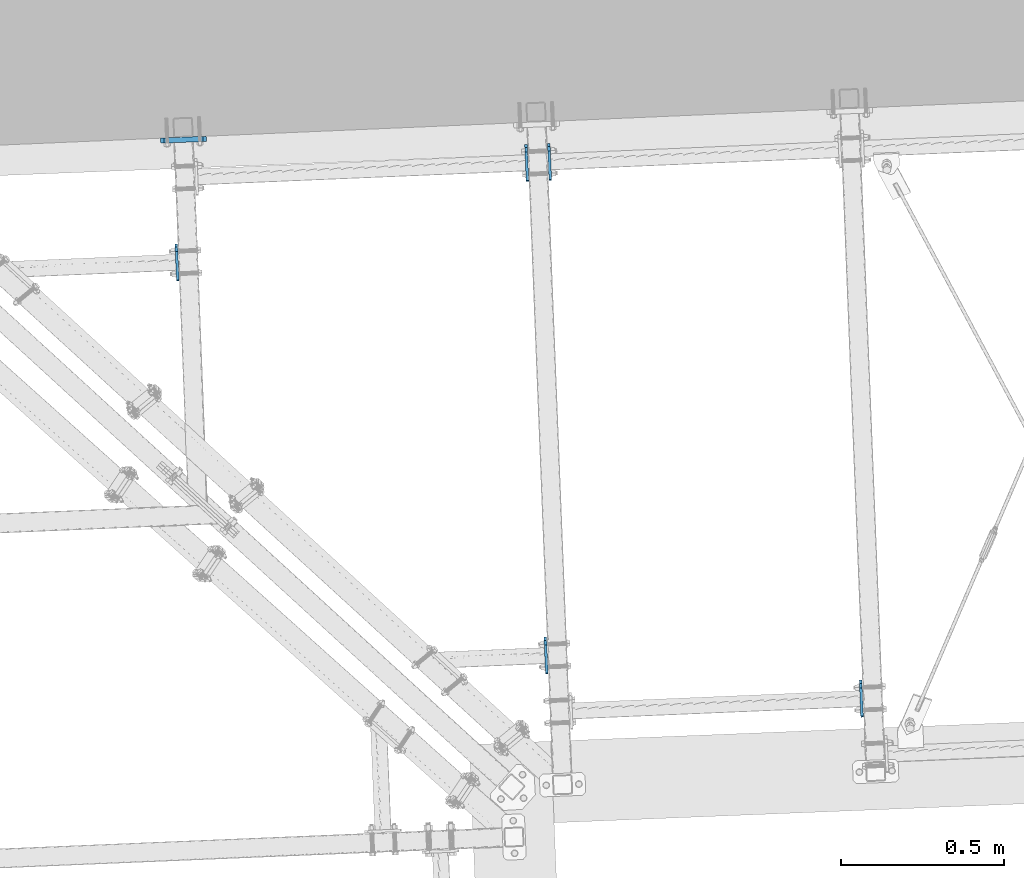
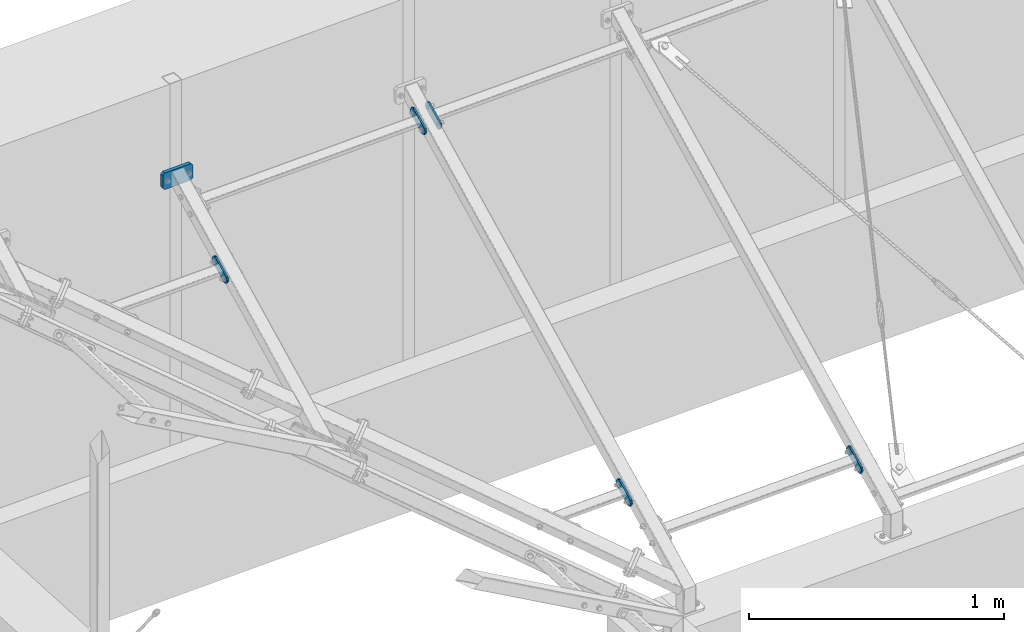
# One storey, part 59 of 288: 6 plates, 42 openings.
"""IFC2X3 building model written with IfcOpenShell, lengths in millimetres."""

from ifc_helpers import new_model, entity, si_unit, converted_unit, point, frame, frame_2d, origin, origin_with_axes, origin_2d_with_axis, place, context, project, spatial, polyline, circle_curve, line_curve, trimmed, segment, composite_curve, circle, outline, extrude, material, layer, layer_set, element, save


model = new_model("IFC2X3")

# Units and contexts
model_context = context("Model", 3, precision=1e-09, world=origin_with_axes())
ifc_project = project(units=[si_unit("LENGTHUNIT", "METRE", prefix="MILLI"), si_unit("AREAUNIT", "SQUARE_METRE"), si_unit("VOLUMEUNIT", "CUBIC_METRE"), converted_unit("PLANEANGLEUNIT", "DEGREE", entity("IfcPlaneAngleMeasure", 0.01745329), si_unit("PLANEANGLEUNIT", "RADIAN"), dimensions=[0, 0, 0, 0, 0, 0, 0])], contexts=[model_context])

# Site, building, storey
site_placement = place(None, origin_with_axes())
site = spatial("IfcSite", under=ifc_project, at=site_placement, Name="Remont ?wietlik?w nad MC w NCPP w Opolu", CompositionType="ELEMENT")
building_placement = place(site_placement, origin_with_axes())
building = spatial("IfcBuilding", under=site, at=building_placement, Name="Konstrukcja 1", CompositionType="ELEMENT")
storey_placement = place(building_placement, origin_with_axes())
storey = spatial("IfcBuildingStorey", under=building, at=storey_placement, Name="Default Storey", CompositionType="ELEMENT", Elevation=0.0)

# Plate, openings
ifc_material = material(Name="S235")
ifc_layer_1 = layer(ifc_material, 8.0)
ifc_layer_set_1 = layer_set([ifc_layer_1], Name="S235")
plate_1_placement = place(None, frame((1371.612563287, 15444.097361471, 1176.731689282), z_axis=(-0.999102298, -0.042361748, 0.000284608), x_axis=(0.021561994, -0.502733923, 0.864172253)))
plate_1 = element("IfcPlate", 1, at=plate_1_placement, inside=storey, material=ifc_layer_set_1, Name="-", ObjectType="-", context=model_context, shape_type="SweptSolid", body=[
    extrude(outline(polyline([(0.0, 0.0), (40.0, 0.0), (40.0, 120.0), (0.0, 120.0), (0.0, 0.0)])), origin_with_axes(), (0.0, 0.0, 1.0), 8.0),
])
opening_1_placement = place(plate_1_placement, frame((0.0, 0.0, -0.01), z_axis=(0.0, 0.0, 1.0), x_axis=(1.0, 0.0, 0.0)))
element("IfcOpeningElement", 2, at=opening_1_placement, cuts=plate_1, ObjectType="Opening", context=model_context, shape_type="SweptSolid", body=[
    extrude(outline(composite_curve([segment(trimmed(line_curve((40.0, 0.0), (0.0, 1.0), 10.0), [point((40.0, 0.0))], [point((40.0, 10.0))], True, "CARTESIAN"), True, "CONTINUOUS"), segment(trimmed(circle_curve(frame_2d((30.0, 10.0), x_axis=(-1.0, 0.0)), 10.0), [point((40.0, 10.0))], [point((30.0, 0.0))], False, "CARTESIAN"), True, "CONTINUOUS"), segment(trimmed(line_curve((30.0, 0.0), (1.0, 0.0), 10.0), [point((30.0, 0.0))], [point((40.0, 0.0))], True, "CARTESIAN"), True, "CONTINUOUS")], self_intersect=False)), origin(), (0.0, 0.0, 1.0), 8.02),
])
opening_2_placement = place(plate_1_placement, frame((0.0, 0.0, -0.01), z_axis=(0.0, 0.0, 1.0), x_axis=(1.0, 0.0, 0.0)))
element("IfcOpeningElement", 3, at=opening_2_placement, cuts=plate_1, ObjectType="Opening", context=model_context, shape_type="SweptSolid", body=[
    extrude(outline(composite_curve([segment(trimmed(line_curve((0.0, 0.0), (1.0, 0.0), 10.0), [point((0.0, 0.0))], [point((10.0, 0.0))], True, "CARTESIAN"), True, "CONTINUOUS"), segment(trimmed(circle_curve(frame_2d((10.0, 10.0), x_axis=(-1.0, 0.0)), 10.0), [point((10.0, 0.0))], [point((0.0, 10.0))], False, "CARTESIAN"), True, "CONTINUOUS"), segment(trimmed(line_curve((0.0, 10.0), (0.0, -1.0), 10.0), [point((0.0, 10.0))], [point((0.0, 0.0))], True, "CARTESIAN"), True, "CONTINUOUS")], self_intersect=False)), origin(), (0.0, 0.0, 1.0), 8.02),
])
opening_3_placement = place(plate_1_placement, frame((0.0, 0.0, -0.01), z_axis=(0.0, 0.0, 1.0), x_axis=(1.0, 0.0, 0.0)))
element("IfcOpeningElement", 4, at=opening_3_placement, cuts=plate_1, ObjectType="Opening", context=model_context, shape_type="SweptSolid", body=[
    extrude(outline(composite_curve([segment(trimmed(line_curve((40.0, 120.0), (-1.0, 0.0), 10.0), [point((40.0, 120.0))], [point((30.0, 120.0))], True, "CARTESIAN"), True, "CONTINUOUS"), segment(trimmed(circle_curve(frame_2d((30.0, 110.0), x_axis=(-1.0, 0.0)), 10.0), [point((30.0, 120.0))], [point((40.0, 110.0))], False, "CARTESIAN"), True, "CONTINUOUS"), segment(trimmed(line_curve((40.0, 110.0), (0.0, 1.0), 10.0), [point((40.0, 110.0))], [point((40.0, 120.0))], True, "CARTESIAN"), True, "CONTINUOUS")], self_intersect=False)), origin(), (0.0, 0.0, 1.0), 8.02),
])
opening_4_placement = place(plate_1_placement, frame((0.0, 0.0, -0.01), z_axis=(0.0, 0.0, 1.0), x_axis=(1.0, 0.0, 0.0)))
element("IfcOpeningElement", 5, at=opening_4_placement, cuts=plate_1, ObjectType="Opening", context=model_context, shape_type="SweptSolid", body=[
    extrude(outline(composite_curve([segment(trimmed(line_curve((0.0, 120.0), (0.0, -1.0), 10.0), [point((0.0, 120.0))], [point((0.0, 110.0))], True, "CARTESIAN"), True, "CONTINUOUS"), segment(trimmed(circle_curve(frame_2d((10.0, 110.0), x_axis=(-1.0, 0.0)), 10.0), [point((0.0, 110.0))], [point((10.0, 120.0))], False, "CARTESIAN"), True, "CONTINUOUS"), segment(trimmed(line_curve((10.0, 120.0), (-1.0, 0.0), 10.0), [point((10.0, 120.0))], [point((0.0, 120.0))], True, "CARTESIAN"), True, "CONTINUOUS")], self_intersect=False)), origin(), (0.0, 0.0, 1.0), 8.02),
])
opening_5_placement = place(plate_1_placement, frame((20.0, 60.0, -0.5), z_axis=(0.0, 0.0, 1.0), x_axis=(1.0, 0.0, 0.0)))
element("IfcOpeningElement", 6, at=opening_5_placement, cuts=plate_1, ObjectType="Opening", context=model_context, shape_type="SweptSolid", body=[
    extrude(circle(Radius=7.001, at=frame_2d((0.0, 40.0), x_axis=(1.0, 0.0))), origin(), (0.0, 0.0, 1.0), 9.0),
])
opening_6_placement = place(plate_1_placement, frame((20.0, 60.0, -0.5), z_axis=(0.0, 0.0, 1.0), x_axis=(1.0, 0.0, 0.0)))
element("IfcOpeningElement", 7, at=opening_6_placement, cuts=plate_1, ObjectType="Opening", context=model_context, shape_type="SweptSolid", body=[
    extrude(circle(Radius=7.001, at=frame_2d((0.0, -40.0), x_axis=(1.0, 0.0))), origin(), (0.0, 0.0, 1.0), 9.0),
])

plate_2_placement = place(None, frame((1441.549724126, 15447.062683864, 1176.711766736), z_axis=(-0.999102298, -0.042361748, 0.000284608), x_axis=(0.021561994, -0.502733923, 0.864172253)))
plate_2 = element("IfcPlate", 8, at=plate_2_placement, inside=storey, material=ifc_layer_set_1, Name="-", ObjectType="-", context=model_context, shape_type="SweptSolid", body=[
    extrude(outline(polyline([(0.0, 0.0), (40.0, 0.0), (40.0, 120.0), (0.0, 120.0), (0.0, 0.0)])), origin_with_axes(), (0.0, 0.0, 1.0), 8.0),
])
opening_7_placement = place(plate_2_placement, frame((0.0, 0.0, -0.01), z_axis=(0.0, 0.0, 1.0), x_axis=(1.0, 0.0, 0.0)))
element("IfcOpeningElement", 9, at=opening_7_placement, cuts=plate_2, ObjectType="Opening", context=model_context, shape_type="SweptSolid", body=[
    extrude(outline(composite_curve([segment(trimmed(line_curve((0.0, 0.0), (1.0, 0.0), 10.0), [point((0.0, 0.0))], [point((10.0, 0.0))], True, "CARTESIAN"), True, "CONTINUOUS"), segment(trimmed(circle_curve(frame_2d((10.0, 10.0), x_axis=(-1.0, 0.0)), 10.0), [point((10.0, 0.0))], [point((0.0, 10.0))], False, "CARTESIAN"), True, "CONTINUOUS"), segment(trimmed(line_curve((0.0, 10.0), (0.0, -1.0), 10.0), [point((0.0, 10.0))], [point((0.0, 0.0))], True, "CARTESIAN"), True, "CONTINUOUS")], self_intersect=False)), origin(), (0.0, 0.0, 1.0), 8.02),
])
opening_8_placement = place(plate_2_placement, frame((0.0, 0.0, -0.01), z_axis=(0.0, 0.0, 1.0), x_axis=(1.0, 0.0, 0.0)))
element("IfcOpeningElement", 10, at=opening_8_placement, cuts=plate_2, ObjectType="Opening", context=model_context, shape_type="SweptSolid", body=[
    extrude(outline(composite_curve([segment(trimmed(line_curve((40.0, 0.0), (0.0, 1.0), 10.0), [point((40.0, 0.0))], [point((40.0, 10.0))], True, "CARTESIAN"), True, "CONTINUOUS"), segment(trimmed(circle_curve(frame_2d((30.0, 10.0), x_axis=(-1.0, 0.0)), 10.0), [point((40.0, 10.0))], [point((30.0, 0.0))], False, "CARTESIAN"), True, "CONTINUOUS"), segment(trimmed(line_curve((30.0, 0.0), (1.0, 0.0), 10.0), [point((30.0, 0.0))], [point((40.0, 0.0))], True, "CARTESIAN"), True, "CONTINUOUS")], self_intersect=False)), origin(), (0.0, 0.0, 1.0), 8.02),
])
opening_9_placement = place(plate_2_placement, frame((0.0, 0.0, -0.01), z_axis=(0.0, 0.0, 1.0), x_axis=(1.0, 0.0, 0.0)))
element("IfcOpeningElement", 11, at=opening_9_placement, cuts=plate_2, ObjectType="Opening", context=model_context, shape_type="SweptSolid", body=[
    extrude(outline(composite_curve([segment(trimmed(line_curve((40.0, 120.0), (-1.0, 0.0), 10.0), [point((40.0, 120.0))], [point((30.0, 120.0))], True, "CARTESIAN"), True, "CONTINUOUS"), segment(trimmed(circle_curve(frame_2d((30.0, 110.0), x_axis=(-1.0, 0.0)), 10.0), [point((30.0, 120.0))], [point((40.0, 110.0))], False, "CARTESIAN"), True, "CONTINUOUS"), segment(trimmed(line_curve((40.0, 110.0), (0.0, 1.0), 10.0), [point((40.0, 110.0))], [point((40.0, 120.0))], True, "CARTESIAN"), True, "CONTINUOUS")], self_intersect=False)), origin(), (0.0, 0.0, 1.0), 8.02),
])
opening_10_placement = place(plate_2_placement, frame((0.0, 0.0, -0.01), z_axis=(0.0, 0.0, 1.0), x_axis=(1.0, 0.0, 0.0)))
element("IfcOpeningElement", 12, at=opening_10_placement, cuts=plate_2, ObjectType="Opening", context=model_context, shape_type="SweptSolid", body=[
    extrude(outline(composite_curve([segment(trimmed(line_curve((0.0, 120.0), (0.0, -1.0), 10.0), [point((0.0, 120.0))], [point((0.0, 110.0))], True, "CARTESIAN"), True, "CONTINUOUS"), segment(trimmed(circle_curve(frame_2d((10.0, 110.0), x_axis=(-1.0, 0.0)), 10.0), [point((0.0, 110.0))], [point((10.0, 120.0))], False, "CARTESIAN"), True, "CONTINUOUS"), segment(trimmed(line_curve((10.0, 120.0), (-1.0, 0.0), 10.0), [point((10.0, 120.0))], [point((0.0, 120.0))], True, "CARTESIAN"), True, "CONTINUOUS")], self_intersect=False)), origin(), (0.0, 0.0, 1.0), 8.02),
])
opening_11_placement = place(plate_2_placement, frame((20.0, 60.0, -0.5), z_axis=(0.0, 0.0, 1.0), x_axis=(1.0, 0.0, 0.0)))
element("IfcOpeningElement", 13, at=opening_11_placement, cuts=plate_2, ObjectType="Opening", context=model_context, shape_type="SweptSolid", body=[
    extrude(circle(Radius=7.001, at=frame_2d((0.0, 40.0), x_axis=(1.0, 0.0))), origin(), (0.0, 0.0, 1.0), 9.0),
])
opening_12_placement = place(plate_2_placement, frame((20.0, 60.0, -0.5), z_axis=(0.0, 0.0, 1.0), x_axis=(1.0, 0.0, 0.0)))
element("IfcOpeningElement", 14, at=opening_12_placement, cuts=plate_2, ObjectType="Opening", context=model_context, shape_type="SweptSolid", body=[
    extrude(circle(Radius=7.001, at=frame_2d((0.0, -40.0), x_axis=(1.0, 0.0))), origin(), (0.0, 0.0, 1.0), 9.0),
])

plate_3_placement = place(None, frame((2396.834676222, 13802.600069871, 193.960324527), z_axis=(-0.999102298, -0.042361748, 0.000284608), x_axis=(0.021561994, -0.502733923, 0.864172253)))
plate_3 = element("IfcPlate", 15, at=plate_3_placement, inside=storey, material=ifc_layer_set_1, Name="-", ObjectType="-", context=model_context, shape_type="SweptSolid", body=[
    extrude(outline(polyline([(0.0, 0.0), (40.0, 0.0), (40.0, 120.0), (0.0, 120.0), (0.0, 0.0)])), origin_with_axes(), (0.0, 0.0, 1.0), 8.0),
])
opening_13_placement = place(plate_3_placement, frame((12.999, 100.0, 8.5), z_axis=(0.0, 0.0, 1.0), x_axis=(1.0, 0.0, 0.0)))
element("IfcOpeningElement", 16, at=opening_13_placement, cuts=plate_3, ObjectType="Opening", context=model_context, shape_type="SweptSolid", body=[
    extrude(circle(Radius=7.001, at=frame_2d((7.001, 0.0), x_axis=(1.0, 0.0))), origin(), (0.0, 0.0, -1.0), 9.0),
])
opening_14_placement = place(plate_3_placement, frame((12.999, 20.0, 8.5), z_axis=(0.0, 0.0, 1.0), x_axis=(1.0, 0.0, 0.0)))
element("IfcOpeningElement", 17, at=opening_14_placement, cuts=plate_3, ObjectType="Opening", context=model_context, shape_type="SweptSolid", body=[
    extrude(circle(Radius=7.001, at=frame_2d((7.001, 0.0), x_axis=(1.0, 0.0))), origin(), (0.0, 0.0, -1.0), 9.0),
])
opening_15_placement = place(plate_3_placement, frame((0.0, 0.0, -0.01), z_axis=(0.0, 0.0, 1.0), x_axis=(1.0, 0.0, 0.0)))
element("IfcOpeningElement", 18, at=opening_15_placement, cuts=plate_3, ObjectType="Opening", context=model_context, shape_type="SweptSolid", body=[
    extrude(outline(composite_curve([segment(trimmed(line_curve((40.0, 0.0), (0.0, 1.0), 10.0), [point((40.0, 0.0))], [point((40.0, 10.0))], True, "CARTESIAN"), True, "CONTINUOUS"), segment(trimmed(circle_curve(frame_2d((30.0, 10.0), x_axis=(-1.0, 0.0)), 10.0), [point((40.0, 10.0))], [point((30.0, 0.0))], False, "CARTESIAN"), True, "CONTINUOUS"), segment(trimmed(line_curve((30.0, 0.0), (1.0, 0.0), 10.0), [point((30.0, 0.0))], [point((40.0, 0.0))], True, "CARTESIAN"), True, "CONTINUOUS")], self_intersect=False)), origin(), (0.0, 0.0, 1.0), 8.02),
])
opening_16_placement = place(plate_3_placement, frame((0.0, 0.0, -0.01), z_axis=(0.0, 0.0, 1.0), x_axis=(1.0, 0.0, 0.0)))
element("IfcOpeningElement", 19, at=opening_16_placement, cuts=plate_3, ObjectType="Opening", context=model_context, shape_type="SweptSolid", body=[
    extrude(outline(composite_curve([segment(trimmed(line_curve((0.0, 0.0), (1.0, 0.0), 10.0), [point((0.0, 0.0))], [point((10.0, 0.0))], True, "CARTESIAN"), True, "CONTINUOUS"), segment(trimmed(circle_curve(frame_2d((10.0, 10.0), x_axis=(-1.0, 0.0)), 10.0), [point((10.0, 0.0))], [point((0.0, 10.0))], False, "CARTESIAN"), True, "CONTINUOUS"), segment(trimmed(line_curve((0.0, 10.0), (0.0, -1.0), 10.0), [point((0.0, 10.0))], [point((0.0, 0.0))], True, "CARTESIAN"), True, "CONTINUOUS")], self_intersect=False)), origin(), (0.0, 0.0, 1.0), 8.02),
])
opening_17_placement = place(plate_3_placement, frame((0.0, 0.0, -0.01), z_axis=(0.0, 0.0, 1.0), x_axis=(1.0, 0.0, 0.0)))
element("IfcOpeningElement", 20, at=opening_17_placement, cuts=plate_3, ObjectType="Opening", context=model_context, shape_type="SweptSolid", body=[
    extrude(outline(composite_curve([segment(trimmed(line_curve((40.0, 120.0), (-1.0, 0.0), 10.0), [point((40.0, 120.0))], [point((30.0, 120.0))], True, "CARTESIAN"), True, "CONTINUOUS"), segment(trimmed(circle_curve(frame_2d((30.0, 110.0), x_axis=(-1.0, 0.0)), 10.0), [point((30.0, 120.0))], [point((40.0, 110.0))], False, "CARTESIAN"), True, "CONTINUOUS"), segment(trimmed(line_curve((40.0, 110.0), (0.0, 1.0), 10.0), [point((40.0, 110.0))], [point((40.0, 120.0))], True, "CARTESIAN"), True, "CONTINUOUS")], self_intersect=False)), origin(), (0.0, 0.0, 1.0), 8.02),
])
opening_18_placement = place(plate_3_placement, frame((0.0, 0.0, -0.01), z_axis=(0.0, 0.0, 1.0), x_axis=(1.0, 0.0, 0.0)))
element("IfcOpeningElement", 21, at=opening_18_placement, cuts=plate_3, ObjectType="Opening", context=model_context, shape_type="SweptSolid", body=[
    extrude(outline(composite_curve([segment(trimmed(line_curve((0.0, 120.0), (0.0, -1.0), 10.0), [point((0.0, 120.0))], [point((0.0, 110.0))], True, "CARTESIAN"), True, "CONTINUOUS"), segment(trimmed(circle_curve(frame_2d((10.0, 110.0), x_axis=(-1.0, 0.0)), 10.0), [point((0.0, 110.0))], [point((10.0, 120.0))], False, "CARTESIAN"), True, "CONTINUOUS"), segment(trimmed(line_curve((10.0, 120.0), (-1.0, 0.0), 10.0), [point((10.0, 120.0))], [point((0.0, 120.0))], True, "CARTESIAN"), True, "CONTINUOUS")], self_intersect=False)), origin(), (0.0, 0.0, 1.0), 8.02),
])
opening_19_placement = place(plate_3_placement, frame((12.999, 100.0, 8.5), z_axis=(0.0, 0.0, 1.0), x_axis=(1.0, 0.0, 0.0)))
element("IfcOpeningElement", 22, at=opening_19_placement, cuts=plate_3, ObjectType="Opening", context=model_context, shape_type="SweptSolid", body=[
    extrude(circle(Radius=7.001, at=frame_2d((7.001, 0.0), x_axis=(1.0, 0.0))), origin(), (0.0, 0.0, -1.0), 9.0),
])
opening_20_placement = place(plate_3_placement, frame((12.999, 20.0, 8.5), z_axis=(0.0, 0.0, 1.0), x_axis=(1.0, 0.0, 0.0)))
element("IfcOpeningElement", 23, at=opening_20_placement, cuts=plate_3, ObjectType="Opening", context=model_context, shape_type="SweptSolid", body=[
    extrude(circle(Radius=7.001, at=frame_2d((7.001, 0.0), x_axis=(1.0, 0.0))), origin(), (0.0, 0.0, -1.0), 9.0),
])

plate_4_placement = place(None, frame((300.159941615, 15139.184757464, 1026.080566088), z_axis=(-0.999102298, -0.042361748, 0.000284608), x_axis=(0.021561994, -0.502733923, 0.864172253)))
plate_4 = element("IfcPlate", 24, at=plate_4_placement, inside=storey, material=ifc_layer_set_1, Name="-", ObjectType="-", context=model_context, shape_type="SweptSolid", body=[
    extrude(outline(polyline([(0.0, 0.0), (40.0, 0.0), (40.0, 120.0), (0.0, 120.0), (0.0, 0.0)])), origin_with_axes(), (0.0, 0.0, 1.0), 8.0),
])
opening_21_placement = place(plate_4_placement, frame((12.999, 100.0, 8.5), z_axis=(0.0, 0.0, 1.0), x_axis=(1.0, 0.0, 0.0)))
element("IfcOpeningElement", 25, at=opening_21_placement, cuts=plate_4, ObjectType="Opening", context=model_context, shape_type="SweptSolid", body=[
    extrude(circle(Radius=7.001, at=frame_2d((7.001, 0.0), x_axis=(1.0, 0.0))), origin(), (0.0, 0.0, -1.0), 9.0),
])
opening_22_placement = place(plate_4_placement, frame((12.999, 20.0, 8.5), z_axis=(0.0, 0.0, 1.0), x_axis=(1.0, 0.0, 0.0)))
element("IfcOpeningElement", 26, at=opening_22_placement, cuts=plate_4, ObjectType="Opening", context=model_context, shape_type="SweptSolid", body=[
    extrude(circle(Radius=7.001, at=frame_2d((7.001, 0.0), x_axis=(1.0, 0.0))), origin(), (0.0, 0.0, -1.0), 9.0),
])
opening_23_placement = place(plate_4_placement, frame((0.0, 0.0, -0.01), z_axis=(0.0, 0.0, 1.0), x_axis=(1.0, 0.0, 0.0)))
element("IfcOpeningElement", 27, at=opening_23_placement, cuts=plate_4, ObjectType="Opening", context=model_context, shape_type="SweptSolid", body=[
    extrude(outline(composite_curve([segment(trimmed(line_curve((40.0, 0.0), (0.0, 1.0), 10.0), [point((40.0, 0.0))], [point((40.0, 10.0))], True, "CARTESIAN"), True, "CONTINUOUS"), segment(trimmed(circle_curve(frame_2d((30.0, 10.0), x_axis=(-1.0, 0.0)), 10.0), [point((40.0, 10.0))], [point((30.0, 0.0))], False, "CARTESIAN"), True, "CONTINUOUS"), segment(trimmed(line_curve((30.0, 0.0), (1.0, 0.0), 10.0), [point((30.0, 0.0))], [point((40.0, 0.0))], True, "CARTESIAN"), True, "CONTINUOUS")], self_intersect=False)), origin(), (0.0, 0.0, 1.0), 8.02),
])
opening_24_placement = place(plate_4_placement, frame((0.0, 0.0, -0.01), z_axis=(0.0, 0.0, 1.0), x_axis=(1.0, 0.0, 0.0)))
element("IfcOpeningElement", 28, at=opening_24_placement, cuts=plate_4, ObjectType="Opening", context=model_context, shape_type="SweptSolid", body=[
    extrude(outline(composite_curve([segment(trimmed(line_curve((0.0, 0.0), (1.0, 0.0), 10.0), [point((0.0, 0.0))], [point((10.0, 0.0))], True, "CARTESIAN"), True, "CONTINUOUS"), segment(trimmed(circle_curve(frame_2d((10.0, 10.0), x_axis=(-1.0, 0.0)), 10.0), [point((10.0, 0.0))], [point((0.0, 10.0))], False, "CARTESIAN"), True, "CONTINUOUS"), segment(trimmed(line_curve((0.0, 10.0), (0.0, -1.0), 10.0), [point((0.0, 10.0))], [point((0.0, 0.0))], True, "CARTESIAN"), True, "CONTINUOUS")], self_intersect=False)), origin(), (0.0, 0.0, 1.0), 8.02),
])
opening_25_placement = place(plate_4_placement, frame((0.0, 0.0, -0.01), z_axis=(0.0, 0.0, 1.0), x_axis=(1.0, 0.0, 0.0)))
element("IfcOpeningElement", 29, at=opening_25_placement, cuts=plate_4, ObjectType="Opening", context=model_context, shape_type="SweptSolid", body=[
    extrude(outline(composite_curve([segment(trimmed(line_curve((40.0, 120.0), (-1.0, 0.0), 10.0), [point((40.0, 120.0))], [point((30.0, 120.0))], True, "CARTESIAN"), True, "CONTINUOUS"), segment(trimmed(circle_curve(frame_2d((30.0, 110.0), x_axis=(-1.0, 0.0)), 10.0), [point((30.0, 120.0))], [point((40.0, 110.0))], False, "CARTESIAN"), True, "CONTINUOUS"), segment(trimmed(line_curve((40.0, 110.0), (0.0, 1.0), 10.0), [point((40.0, 110.0))], [point((40.0, 120.0))], True, "CARTESIAN"), True, "CONTINUOUS")], self_intersect=False)), origin(), (0.0, 0.0, 1.0), 8.02),
])
opening_26_placement = place(plate_4_placement, frame((0.0, 0.0, -0.01), z_axis=(0.0, 0.0, 1.0), x_axis=(1.0, 0.0, 0.0)))
element("IfcOpeningElement", 30, at=opening_26_placement, cuts=plate_4, ObjectType="Opening", context=model_context, shape_type="SweptSolid", body=[
    extrude(outline(composite_curve([segment(trimmed(line_curve((0.0, 120.0), (0.0, -1.0), 10.0), [point((0.0, 120.0))], [point((0.0, 110.0))], True, "CARTESIAN"), True, "CONTINUOUS"), segment(trimmed(circle_curve(frame_2d((10.0, 110.0), x_axis=(-1.0, 0.0)), 10.0), [point((0.0, 110.0))], [point((10.0, 120.0))], False, "CARTESIAN"), True, "CONTINUOUS"), segment(trimmed(line_curve((10.0, 120.0), (-1.0, 0.0), 10.0), [point((10.0, 120.0))], [point((0.0, 120.0))], True, "CARTESIAN"), True, "CONTINUOUS")], self_intersect=False)), origin(), (0.0, 0.0, 1.0), 8.02),
])
opening_27_placement = place(plate_4_placement, frame((12.999, 100.0, 8.5), z_axis=(0.0, 0.0, 1.0), x_axis=(1.0, 0.0, 0.0)))
element("IfcOpeningElement", 31, at=opening_27_placement, cuts=plate_4, ObjectType="Opening", context=model_context, shape_type="SweptSolid", body=[
    extrude(circle(Radius=7.001, at=frame_2d((7.001, 0.0), x_axis=(1.0, 0.0))), origin(), (0.0, 0.0, -1.0), 9.0),
])
opening_28_placement = place(plate_4_placement, frame((12.999, 20.0, 8.5), z_axis=(0.0, 0.0, 1.0), x_axis=(1.0, 0.0, 0.0)))
element("IfcOpeningElement", 32, at=opening_28_placement, cuts=plate_4, ObjectType="Opening", context=model_context, shape_type="SweptSolid", body=[
    extrude(circle(Radius=7.001, at=frame_2d((7.001, 0.0), x_axis=(1.0, 0.0))), origin(), (0.0, 0.0, -1.0), 9.0),
])

plate_5_placement = place(None, frame((1430.774772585, 13934.505379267, 295.083394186), z_axis=(-0.999102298, -0.042361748, 0.000284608), x_axis=(0.021561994, -0.502733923, 0.864172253)))
plate_5 = element("IfcPlate", 33, at=plate_5_placement, inside=storey, material=ifc_layer_set_1, Name="-", ObjectType="-", context=model_context, shape_type="SweptSolid", body=[
    extrude(outline(polyline([(0.0, 0.0), (40.0, 0.0), (40.0, 120.0), (0.0, 120.0), (0.0, 0.0)])), origin_with_axes(), (0.0, 0.0, 1.0), 8.0),
])
opening_29_placement = place(plate_5_placement, frame((12.999, 100.0, 8.5), z_axis=(0.0, 0.0, 1.0), x_axis=(1.0, 0.0, 0.0)))
element("IfcOpeningElement", 34, at=opening_29_placement, cuts=plate_5, ObjectType="Opening", context=model_context, shape_type="SweptSolid", body=[
    extrude(circle(Radius=7.001, at=frame_2d((7.001, 0.0), x_axis=(1.0, 0.0))), origin(), (0.0, 0.0, -1.0), 9.0),
])
opening_30_placement = place(plate_5_placement, frame((12.999, 20.0, 8.5), z_axis=(0.0, 0.0, 1.0), x_axis=(1.0, 0.0, 0.0)))
element("IfcOpeningElement", 35, at=opening_30_placement, cuts=plate_5, ObjectType="Opening", context=model_context, shape_type="SweptSolid", body=[
    extrude(circle(Radius=7.001, at=frame_2d((7.001, 0.0), x_axis=(1.0, 0.0))), origin(), (0.0, 0.0, -1.0), 9.0),
])
opening_31_placement = place(plate_5_placement, frame((0.0, 0.0, -0.01), z_axis=(0.0, 0.0, 1.0), x_axis=(1.0, 0.0, 0.0)))
element("IfcOpeningElement", 36, at=opening_31_placement, cuts=plate_5, ObjectType="Opening", context=model_context, shape_type="SweptSolid", body=[
    extrude(outline(composite_curve([segment(trimmed(line_curve((40.0, 0.0), (0.0, 1.0), 10.0), [point((40.0, 0.0))], [point((40.0, 10.0))], True, "CARTESIAN"), True, "CONTINUOUS"), segment(trimmed(circle_curve(frame_2d((30.0, 10.0), x_axis=(-1.0, 0.0)), 10.0), [point((40.0, 10.0))], [point((30.0, 0.0))], False, "CARTESIAN"), True, "CONTINUOUS"), segment(trimmed(line_curve((30.0, 0.0), (1.0, 0.0), 10.0), [point((30.0, 0.0))], [point((40.0, 0.0))], True, "CARTESIAN"), True, "CONTINUOUS")], self_intersect=False)), origin(), (0.0, 0.0, 1.0), 8.02),
])
opening_32_placement = place(plate_5_placement, frame((0.0, 0.0, -0.01), z_axis=(0.0, 0.0, 1.0), x_axis=(1.0, 0.0, 0.0)))
element("IfcOpeningElement", 37, at=opening_32_placement, cuts=plate_5, ObjectType="Opening", context=model_context, shape_type="SweptSolid", body=[
    extrude(outline(composite_curve([segment(trimmed(line_curve((0.0, 0.0), (1.0, 0.0), 10.0), [point((0.0, 0.0))], [point((10.0, 0.0))], True, "CARTESIAN"), True, "CONTINUOUS"), segment(trimmed(circle_curve(frame_2d((10.0, 10.0), x_axis=(-1.0, 0.0)), 10.0), [point((10.0, 0.0))], [point((0.0, 10.0))], False, "CARTESIAN"), True, "CONTINUOUS"), segment(trimmed(line_curve((0.0, 10.0), (0.0, -1.0), 10.0), [point((0.0, 10.0))], [point((0.0, 0.0))], True, "CARTESIAN"), True, "CONTINUOUS")], self_intersect=False)), origin(), (0.0, 0.0, 1.0), 8.02),
])
opening_33_placement = place(plate_5_placement, frame((0.0, 0.0, -0.01), z_axis=(0.0, 0.0, 1.0), x_axis=(1.0, 0.0, 0.0)))
element("IfcOpeningElement", 38, at=opening_33_placement, cuts=plate_5, ObjectType="Opening", context=model_context, shape_type="SweptSolid", body=[
    extrude(outline(composite_curve([segment(trimmed(line_curve((40.0, 120.0), (-1.0, 0.0), 10.0), [point((40.0, 120.0))], [point((30.0, 120.0))], True, "CARTESIAN"), True, "CONTINUOUS"), segment(trimmed(circle_curve(frame_2d((30.0, 110.0), x_axis=(-1.0, 0.0)), 10.0), [point((30.0, 120.0))], [point((40.0, 110.0))], False, "CARTESIAN"), True, "CONTINUOUS"), segment(trimmed(line_curve((40.0, 110.0), (0.0, 1.0), 10.0), [point((40.0, 110.0))], [point((40.0, 120.0))], True, "CARTESIAN"), True, "CONTINUOUS")], self_intersect=False)), origin(), (0.0, 0.0, 1.0), 8.02),
])
opening_34_placement = place(plate_5_placement, frame((0.0, 0.0, -0.01), z_axis=(0.0, 0.0, 1.0), x_axis=(1.0, 0.0, 0.0)))
element("IfcOpeningElement", 39, at=opening_34_placement, cuts=plate_5, ObjectType="Opening", context=model_context, shape_type="SweptSolid", body=[
    extrude(outline(composite_curve([segment(trimmed(line_curve((0.0, 120.0), (0.0, -1.0), 10.0), [point((0.0, 120.0))], [point((0.0, 110.0))], True, "CARTESIAN"), True, "CONTINUOUS"), segment(trimmed(circle_curve(frame_2d((10.0, 110.0), x_axis=(-1.0, 0.0)), 10.0), [point((0.0, 110.0))], [point((10.0, 120.0))], False, "CARTESIAN"), True, "CONTINUOUS"), segment(trimmed(line_curve((10.0, 120.0), (-1.0, 0.0), 10.0), [point((10.0, 120.0))], [point((0.0, 120.0))], True, "CARTESIAN"), True, "CONTINUOUS")], self_intersect=False)), origin(), (0.0, 0.0, 1.0), 8.02),
])
opening_35_placement = place(plate_5_placement, frame((12.999, 100.0, 8.5), z_axis=(0.0, 0.0, 1.0), x_axis=(1.0, 0.0, 0.0)))
element("IfcOpeningElement", 40, at=opening_35_placement, cuts=plate_5, ObjectType="Opening", context=model_context, shape_type="SweptSolid", body=[
    extrude(circle(Radius=7.001, at=frame_2d((7.001, 0.0), x_axis=(1.0, 0.0))), origin(), (0.0, 0.0, -1.0), 9.0),
])
opening_36_placement = place(plate_5_placement, frame((12.999, 20.0, 8.5), z_axis=(0.0, 0.0, 1.0), x_axis=(1.0, 0.0, 0.0)))
element("IfcOpeningElement", 41, at=opening_36_placement, cuts=plate_5, ObjectType="Opening", context=model_context, shape_type="SweptSolid", body=[
    extrude(circle(Radius=7.001, at=frame_2d((7.001, 0.0), x_axis=(1.0, 0.0))), origin(), (0.0, 0.0, -1.0), 9.0),
])

ifc_layer_2 = layer(ifc_material, 16.0)
ifc_layer_set_2 = layer_set([ifc_layer_2], Name="S235")
plate_6_placement = place(None, frame((384.505378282, 15551.581935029, 1326.851810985), z_axis=(-0.039393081, 0.999223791, 0.0), x_axis=(0.0, 0.0, -1.0)))
plate_6 = element("IfcPlate", 42, at=plate_6_placement, inside=storey, material=ifc_layer_set_2, Name="Baseplate", ObjectType="Baseplate", context=model_context, shape_type="SweptSolid", body=[
    extrude(outline(polyline([(0.0, 0.0), (79.603635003, 0.0), (79.603635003, 140.0), (0.0, 140.0), (0.0, 0.0)])), origin_with_axes(), (0.0, 0.0, 1.0), 16.0),
])
opening_37_placement = place(plate_6_placement, frame((0.0, 0.0, -0.01), z_axis=(0.0, 0.0, 1.0), x_axis=(1.0, 0.0, 0.0)))
element("IfcOpeningElement", 43, at=opening_37_placement, cuts=plate_6, ObjectType="Opening", context=model_context, shape_type="SweptSolid", body=[
    extrude(outline(composite_curve([segment(trimmed(line_curve((0.0, 140.0), (0.0, -1.0), 10.0), [point((0.0, 140.0))], [point((0.0, 130.0))], True, "CARTESIAN"), True, "CONTINUOUS"), segment(trimmed(circle_curve(frame_2d((10.0, 130.0), x_axis=(-1.0, 0.0)), 10.0), [point((0.0, 130.0))], [point((10.0, 140.0))], False, "CARTESIAN"), True, "CONTINUOUS"), segment(trimmed(line_curve((10.0, 140.0), (-1.0, 0.0), 10.0), [point((10.0, 140.0))], [point((0.0, 140.0))], True, "CARTESIAN"), True, "CONTINUOUS")], self_intersect=False)), origin(), (0.0, 0.0, 1.0), 16.02),
])
opening_38_placement = place(plate_6_placement, frame((0.0, 0.0, -0.01), z_axis=(0.0, 0.0, 1.0), x_axis=(1.0, 0.0, 0.0)))
element("IfcOpeningElement", 44, at=opening_38_placement, cuts=plate_6, ObjectType="Opening", context=model_context, shape_type="SweptSolid", body=[
    extrude(outline(composite_curve([segment(trimmed(line_curve((0.0, 0.0), (1.0, 0.0), 10.0), [point((0.0, 0.0))], [point((10.0, 0.0))], True, "CARTESIAN"), True, "CONTINUOUS"), segment(trimmed(circle_curve(frame_2d((10.0, 10.0), x_axis=(-1.0, 0.0)), 10.0), [point((10.0, 0.0))], [point((0.0, 10.0))], False, "CARTESIAN"), True, "CONTINUOUS"), segment(trimmed(line_curve((0.0, 10.0), (0.0, -1.0), 10.0), [point((0.0, 10.0))], [point((0.0, 0.0))], True, "CARTESIAN"), True, "CONTINUOUS")], self_intersect=False)), origin(), (0.0, 0.0, 1.0), 16.02),
])
opening_39_placement = place(plate_6_placement, frame((0.0, 0.0, -0.01), z_axis=(0.0, 0.0, 1.0), x_axis=(1.0, 0.0, 0.0)))
element("IfcOpeningElement", 45, at=opening_39_placement, cuts=plate_6, ObjectType="Opening", context=model_context, shape_type="SweptSolid", body=[
    extrude(outline(composite_curve([segment(trimmed(line_curve((79.603635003, 0.0), (0.0, 1.0), 10.0), [point((79.603635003, 0.0))], [point((79.603635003, 10.0))], True, "CARTESIAN"), True, "CONTINUOUS"), segment(trimmed(circle_curve(frame_2d((69.603635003, 10.0), x_axis=(-1.0, 0.0)), 10.0), [point((79.603635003, 10.0))], [point((69.603635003, 0.0))], False, "CARTESIAN"), True, "CONTINUOUS"), segment(trimmed(line_curve((69.603635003, 0.0), (1.0, 0.0), 10.0), [point((69.603635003, 0.0))], [point((79.603635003, 0.0))], True, "CARTESIAN"), True, "CONTINUOUS")], self_intersect=False)), origin(), (0.0, 0.0, 1.0), 16.02),
])
opening_40_placement = place(plate_6_placement, frame((0.0, 0.0, -0.01), z_axis=(0.0, 0.0, 1.0), x_axis=(1.0, 0.0, 0.0)))
element("IfcOpeningElement", 46, at=opening_40_placement, cuts=plate_6, ObjectType="Opening", context=model_context, shape_type="SweptSolid", body=[
    extrude(outline(composite_curve([segment(trimmed(line_curve((79.603635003, 140.0), (-1.0, 0.0), 10.0), [point((79.603635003, 140.0))], [point((69.603635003, 140.0))], True, "CARTESIAN"), True, "CONTINUOUS"), segment(trimmed(circle_curve(frame_2d((69.603635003, 130.0), x_axis=(-1.0, 0.0)), 10.0), [point((69.603635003, 140.0))], [point((79.603635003, 130.0))], False, "CARTESIAN"), True, "CONTINUOUS"), segment(trimmed(line_curve((79.603635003, 130.0), (0.0, 1.0), 10.0), [point((79.603635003, 130.0))], [point((79.603635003, 140.0))], True, "CARTESIAN"), True, "CONTINUOUS")], self_intersect=False)), origin(), (0.0, 0.0, 1.0), 16.02),
])
opening_41_placement = place(plate_6_placement, frame((39.801817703, 120.0, 16.5), z_axis=(0.0, 0.0, -1.0), x_axis=(1.0, 0.0, 0.0)))
element("IfcOpeningElement", 47, at=opening_41_placement, cuts=plate_6, ObjectType="Opening", context=model_context, shape_type="SweptSolid", body=[
    extrude(circle(Radius=6.001, at=origin_2d_with_axis()), origin(), (0.0, 0.0, 1.0), 17.0),
])
opening_42_placement = place(plate_6_placement, frame((39.801817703, 20.0, 16.5), z_axis=(0.0, 0.0, -1.0), x_axis=(1.0, 0.0, 0.0)))
element("IfcOpeningElement", 48, at=opening_42_placement, cuts=plate_6, ObjectType="Opening", context=model_context, shape_type="SweptSolid", body=[
    extrude(circle(Radius=6.001, at=origin_2d_with_axis()), origin(), (0.0, 0.0, 1.0), 17.0),
])

save(model, "model.ifc")
